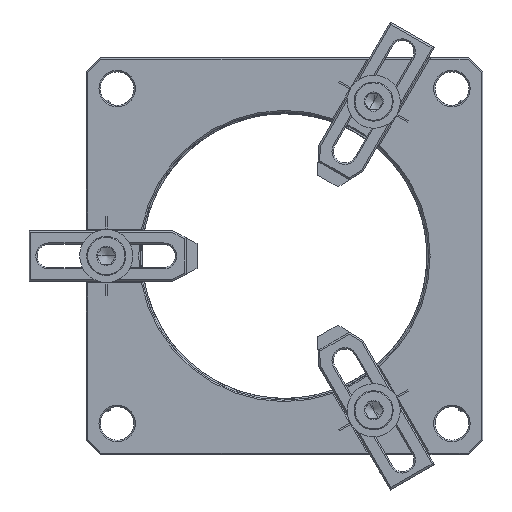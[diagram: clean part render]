
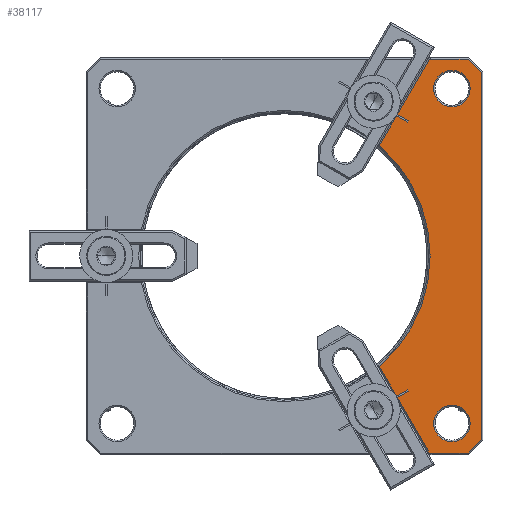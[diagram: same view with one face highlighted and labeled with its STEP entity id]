
A CAD part, top view. The second image highlights one B-rep face of the part: STEP entity #38117.
In plain terms, the highlighted planar face has unit normal (0, 0, 1).
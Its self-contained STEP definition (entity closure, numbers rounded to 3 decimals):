
#2470=DIRECTION('',(0.,-1.,0.));
#2471=VECTOR('',#2470,65.83);
#2472=CARTESIAN_POINT('',(35.306,32.915,3.81));
#2473=LINE('',#2472,#2471);
#2494=DIRECTION('',(-1.,0.,0.));
#2495=VECTOR('',#2494,6.958);
#2496=CARTESIAN_POINT('',(32.915,-35.306,3.81));
#2497=LINE('',#2496,#2495);
#3076=DIRECTION('',(1.,0.,0.));
#3077=VECTOR('',#3076,6.958);
#3078=CARTESIAN_POINT('',(25.957,35.306,3.81));
#3079=LINE('',#3078,#3077);
#3096=DIRECTION('',(0.5,-0.866,0.));
#3097=VECTOR('',#3096,6.165);
#3098=CARTESIAN_POINT('',(17.004,-19.799,3.81));
#3099=LINE('',#3098,#3097);
#3100=CARTESIAN_POINT('',(0.,0.,3.81));
#3101=DIRECTION('',(0.,0.,-1.));
#3102=DIRECTION('',(1.,0.,0.));
#3103=AXIS2_PLACEMENT_3D('',#3100,#3101,#3102);
#3105=CARTESIAN_POINT('',(0.,0.,3.81));
#3106=DIRECTION('',(0.,0.,-1.));
#3107=DIRECTION('',(0.652,0.759,0.));
#3108=AXIS2_PLACEMENT_3D('',#3105,#3106,#3107);
#3110=DIRECTION('',(-0.5,-0.866,0.));
#3111=VECTOR('',#3110,6.165);
#3112=CARTESIAN_POINT('',(20.086,25.138,3.81));
#3113=LINE('',#3112,#3111);
#3114=DIRECTION('',(-0.866,0.5,0.));
#3115=VECTOR('',#3114,2.286);
#3116=CARTESIAN_POINT('',(22.066,23.995,3.81));
#3117=LINE('',#3116,#3115);
#3118=DIRECTION('',(-0.5,-0.866,0.));
#3119=VECTOR('',#3118,0.254);
#3120=CARTESIAN_POINT('',(22.193,24.215,3.81));
#3121=LINE('',#3120,#3119);
#3122=DIRECTION('',(0.866,-0.5,0.));
#3123=VECTOR('',#3122,2.286);
#3124=CARTESIAN_POINT('',(20.213,25.358,3.81));
#3125=LINE('',#3124,#3123);
#3126=DIRECTION('',(-0.5,-0.866,0.));
#3127=VECTOR('',#3126,11.487);
#3128=CARTESIAN_POINT('',(25.957,35.306,3.81));
#3129=LINE('',#3128,#3127);
#3130=DIRECTION('',(-0.707,0.707,0.));
#3131=VECTOR('',#3130,3.382);
#3132=CARTESIAN_POINT('',(35.306,32.915,3.81));
#3133=LINE('',#3132,#3131);
#3134=DIRECTION('',(0.707,0.707,0.));
#3135=VECTOR('',#3134,3.382);
#3136=CARTESIAN_POINT('',(32.915,-35.306,3.81));
#3137=LINE('',#3136,#3135);
#3138=DIRECTION('',(0.5,-0.866,0.));
#3139=VECTOR('',#3138,11.487);
#3140=CARTESIAN_POINT('',(20.213,-25.358,3.81));
#3141=LINE('',#3140,#3139);
#3142=CARTESIAN_POINT('',(30.,-30.,3.81));
#3143=DIRECTION('',(0.,0.,-1.));
#3144=DIRECTION('',(1.,0.,0.));
#3145=AXIS2_PLACEMENT_3D('',#3142,#3143,#3144);
#3147=CARTESIAN_POINT('',(30.,-30.,3.81));
#3148=DIRECTION('',(0.,0.,-1.));
#3149=DIRECTION('',(-1.,0.,0.));
#3150=AXIS2_PLACEMENT_3D('',#3147,#3148,#3149);
#3152=CARTESIAN_POINT('',(30.,30.,3.81));
#3153=DIRECTION('',(0.,0.,-1.));
#3154=DIRECTION('',(1.,0.,0.));
#3155=AXIS2_PLACEMENT_3D('',#3152,#3153,#3154);
#3157=CARTESIAN_POINT('',(30.,30.,3.81));
#3158=DIRECTION('',(0.,0.,-1.));
#3159=DIRECTION('',(-1.,0.,0.));
#3160=AXIS2_PLACEMENT_3D('',#3157,#3158,#3159);
#3174=DIRECTION('',(-0.866,-0.5,0.));
#3175=VECTOR('',#3174,2.286);
#3176=CARTESIAN_POINT('',(22.066,-23.995,3.81));
#3177=LINE('',#3176,#3175);
#3178=DIRECTION('',(-0.5,0.866,0.));
#3179=VECTOR('',#3178,0.254);
#3180=CARTESIAN_POINT('',(22.193,-24.215,3.81));
#3181=LINE('',#3180,#3179);
#3182=DIRECTION('',(0.866,0.5,0.));
#3183=VECTOR('',#3182,2.286);
#3184=CARTESIAN_POINT('',(20.213,-25.358,3.81));
#3185=LINE('',#3184,#3183);
#3471=CARTESIAN_POINT('',(17.004,-19.799,3.81));
#21521=CARTESIAN_POINT('',(25.957,35.306,3.81));
#21522=CARTESIAN_POINT('',(20.213,25.358,3.81));
#21523=VERTEX_POINT('',#21521);
#21524=VERTEX_POINT('',#21522);
#21537=CARTESIAN_POINT('',(20.086,25.138,3.81));
#21538=CARTESIAN_POINT('',(17.004,19.799,3.81));
#21539=VERTEX_POINT('',#21537);
#21540=VERTEX_POINT('',#21538);
#21595=CARTESIAN_POINT('',(35.306,32.915,3.81));
#21596=CARTESIAN_POINT('',(32.915,35.306,3.81));
#21597=VERTEX_POINT('',#21595);
#21598=VERTEX_POINT('',#21596);
#21665=CARTESIAN_POINT('',(26.736,30.,3.81));
#21666=VERTEX_POINT('',#21665);
#21691=CARTESIAN_POINT('',(32.915,-35.306,3.81));
#21692=CARTESIAN_POINT('',(25.957,-35.306,3.81));
#21693=VERTEX_POINT('',#21691);
#21694=VERTEX_POINT('',#21692);
#21704=CARTESIAN_POINT('',(35.306,-32.915,3.81));
#21705=VERTEX_POINT('',#21704);
#21755=VERTEX_POINT('',#3471);
#21788=CARTESIAN_POINT('',(33.264,30.,3.81));
#21789=VERTEX_POINT('',#21788);
#21806=CARTESIAN_POINT('',(33.264,-30.,3.81));
#21807=VERTEX_POINT('',#21806);
#21854=CARTESIAN_POINT('',(26.099,0.,3.81));
#21855=VERTEX_POINT('',#21854);
#21864=CARTESIAN_POINT('',(20.213,-25.358,3.81));
#21865=VERTEX_POINT('',#21864);
#21866=CARTESIAN_POINT('',(26.736,-30.,3.81));
#21867=VERTEX_POINT('',#21866);
#21870=CARTESIAN_POINT('',(20.086,-25.138,3.81));
#21871=VERTEX_POINT('',#21870);
#21893=CARTESIAN_POINT('',(22.193,24.215,3.81));
#21894=VERTEX_POINT('',#21893);
#21899=CARTESIAN_POINT('',(22.193,-24.215,3.81));
#21900=CARTESIAN_POINT('',(22.066,-23.995,3.81));
#21901=VERTEX_POINT('',#21899);
#21902=VERTEX_POINT('',#21900);
#21903=CARTESIAN_POINT('',(22.066,23.995,3.81));
#21904=VERTEX_POINT('',#21903);
#38069=CARTESIAN_POINT('',(0.,0.,3.81));
#38070=DIRECTION('',(0.,0.,1.));
#38071=DIRECTION('',(1.,0.,0.));
#38072=AXIS2_PLACEMENT_3D('',#38069,#38070,#38071);
#38073=PLANE('',#38072);
#38075=ORIENTED_EDGE('',*,*,#38074,.F.);
#38077=ORIENTED_EDGE('',*,*,#38076,.F.);
#38079=ORIENTED_EDGE('',*,*,#38078,.F.);
#38081=ORIENTED_EDGE('',*,*,#38080,.F.);
#38083=ORIENTED_EDGE('',*,*,#38082,.F.);
#38085=ORIENTED_EDGE('',*,*,#38084,.F.);
#38087=ORIENTED_EDGE('',*,*,#38086,.F.);
#38089=ORIENTED_EDGE('',*,*,#38088,.F.);
#38090=ORIENTED_EDGE('',*,*,#38049,.T.);
#38091=ORIENTED_EDGE('',*,*,#38062,.F.);
#38092=ORIENTED_EDGE('',*,*,#37199,.T.);
#38093=ORIENTED_EDGE('',*,*,#37214,.F.);
#38094=ORIENTED_EDGE('',*,*,#37228,.T.);
#38096=ORIENTED_EDGE('',*,*,#38095,.F.);
#38098=ORIENTED_EDGE('',*,*,#38097,.T.);
#38100=ORIENTED_EDGE('',*,*,#38099,.T.);
#38102=ORIENTED_EDGE('',*,*,#38101,.T.);
#38103=EDGE_LOOP('',(#38075,#38077,#38079,#38081,#38083,#38085,#38087,#38089,
#38090,#38091,#38092,#38093,#38094,#38096,#38098,#38100,#38102));
#38104=FACE_OUTER_BOUND('',#38103,.F.);
#38106=ORIENTED_EDGE('',*,*,#38105,.F.);
#38108=ORIENTED_EDGE('',*,*,#38107,.F.);
#38109=EDGE_LOOP('',(#38106,#38108));
#38110=FACE_BOUND('',#38109,.F.);
#38112=ORIENTED_EDGE('',*,*,#38111,.F.);
#38114=ORIENTED_EDGE('',*,*,#38113,.F.);
#38115=EDGE_LOOP('',(#38112,#38114));
#38116=FACE_BOUND('',#38115,.F.);
#38117=ADVANCED_FACE('',(#38104,#38110,#38116),#38073,.T.);
#3104=CIRCLE('',#3103,26.099);
#3109=CIRCLE('',#3108,26.099);
#3146=CIRCLE('',#3145,3.264);
#3151=CIRCLE('',#3150,3.264);
#3156=CIRCLE('',#3155,3.264);
#3161=CIRCLE('',#3160,3.264);
#37199=EDGE_CURVE('',#21597,#21705,#2473,.T.);
#37214=EDGE_CURVE('',#21693,#21705,#3137,.T.);
#37228=EDGE_CURVE('',#21693,#21694,#2497,.T.);
#38049=EDGE_CURVE('',#21523,#21598,#3079,.T.);
#38062=EDGE_CURVE('',#21597,#21598,#3133,.T.);
#38074=EDGE_CURVE('',#21755,#21871,#3099,.T.);
#38076=EDGE_CURVE('',#21855,#21755,#3104,.T.);
#38078=EDGE_CURVE('',#21540,#21855,#3109,.T.);
#38080=EDGE_CURVE('',#21539,#21540,#3113,.T.);
#38082=EDGE_CURVE('',#21904,#21539,#3117,.T.);
#38084=EDGE_CURVE('',#21894,#21904,#3121,.T.);
#38086=EDGE_CURVE('',#21524,#21894,#3125,.T.);
#38088=EDGE_CURVE('',#21523,#21524,#3129,.T.);
#38095=EDGE_CURVE('',#21865,#21694,#3141,.T.);
#38097=EDGE_CURVE('',#21865,#21901,#3185,.T.);
#38099=EDGE_CURVE('',#21901,#21902,#3181,.T.);
#38101=EDGE_CURVE('',#21902,#21871,#3177,.T.);
#38105=EDGE_CURVE('',#21807,#21867,#3146,.T.);
#38107=EDGE_CURVE('',#21867,#21807,#3151,.T.);
#38111=EDGE_CURVE('',#21789,#21666,#3156,.T.);
#38113=EDGE_CURVE('',#21666,#21789,#3161,.T.);
